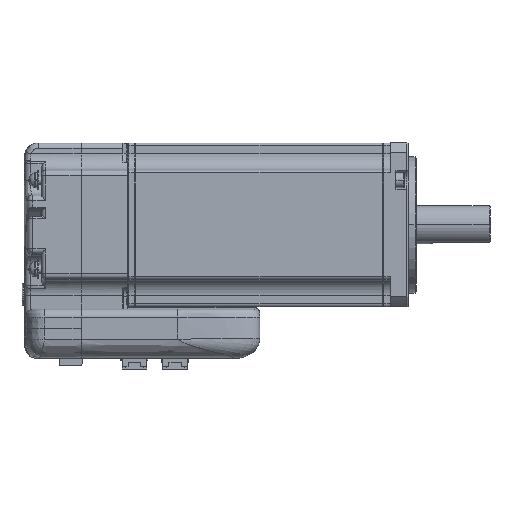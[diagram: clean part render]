
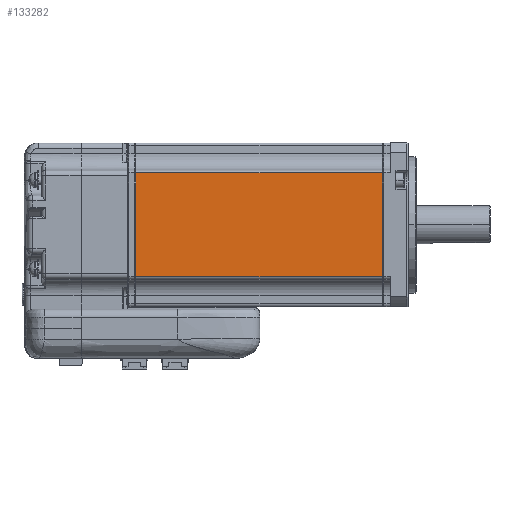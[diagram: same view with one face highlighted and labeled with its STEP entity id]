
A CAD part, top view. The second image highlights one B-rep face of the part: STEP entity #133282.
In plain terms, the highlighted planar face has unit normal (0, 0, 1) as drawn and (1, 0, 0) by its records, which use the part's own axes.
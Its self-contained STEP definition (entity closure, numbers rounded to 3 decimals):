
#130294=DIRECTION('',(0.,-1.,0.));
#130295=VECTOR('',#130294,38.);
#130296=CARTESIAN_POINT('',(22.128,28.84,30.25));
#130297=LINE('',#130296,#130295);
#130745=DIRECTION('',(0.,0.,1.));
#130746=VECTOR('',#130745,90.5);
#130747=CARTESIAN_POINT('',(22.128,-9.16,30.25));
#130748=LINE('',#130747,#130746);
#130969=DIRECTION('',(0.,0.,-1.));
#130970=VECTOR('',#130969,90.5);
#130971=CARTESIAN_POINT('',(22.128,28.84,120.75));
#130972=LINE('',#130971,#130970);
#130983=DIRECTION('',(0.,-1.,0.));
#130984=VECTOR('',#130983,38.);
#130985=CARTESIAN_POINT('',(22.128,28.84,120.75));
#130986=LINE('',#130985,#130984);
#132327=CARTESIAN_POINT('',(22.128,28.84,30.25));
#132329=VERTEX_POINT('',#132327);
#132376=CARTESIAN_POINT('',(22.128,28.84,120.75));
#132377=VERTEX_POINT('',#132376);
#132404=CARTESIAN_POINT('',(22.128,-9.16,120.75));
#132405=VERTEX_POINT('',#132404);
#132456=CARTESIAN_POINT('',(22.128,-9.16,30.25));
#132457=VERTEX_POINT('',#132456);
#133270=CARTESIAN_POINT('',(22.128,28.84,120.75));
#133271=DIRECTION('',(-1.,0.,0.));
#133272=DIRECTION('',(0.,0.,1.));
#133273=AXIS2_PLACEMENT_3D('',#133270,#133271,#133272);
#133274=PLANE('',#133273);
#133275=ORIENTED_EDGE('',*,*,#132663,.T.);
#133276=ORIENTED_EDGE('',*,*,#132796,.T.);
#133278=ORIENTED_EDGE('',*,*,#133277,.F.);
#133279=ORIENTED_EDGE('',*,*,#133255,.T.);
#133280=EDGE_LOOP('',(#133275,#133276,#133278,#133279));
#133281=FACE_OUTER_BOUND('',#133280,.F.);
#133282=ADVANCED_FACE('',(#133281),#133274,.F.);
#132663=EDGE_CURVE('',#132329,#132457,#130297,.T.);
#132796=EDGE_CURVE('',#132457,#132405,#130748,.T.);
#133255=EDGE_CURVE('',#132377,#132329,#130972,.T.);
#133277=EDGE_CURVE('',#132377,#132405,#130986,.T.);
